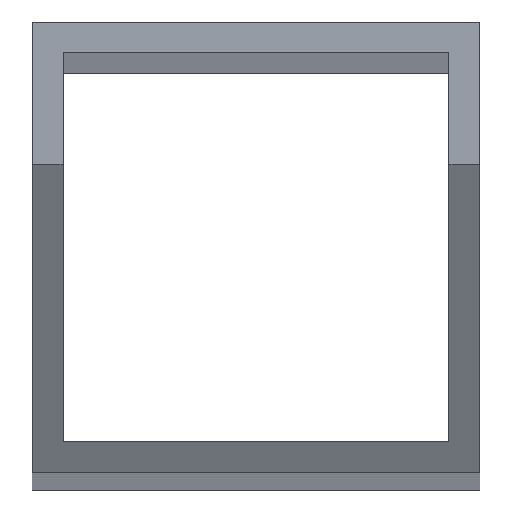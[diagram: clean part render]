
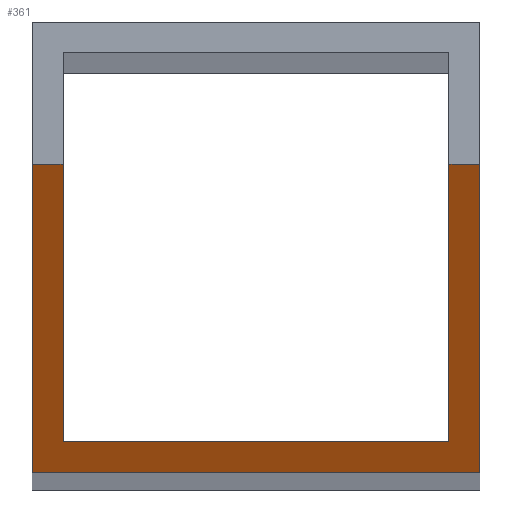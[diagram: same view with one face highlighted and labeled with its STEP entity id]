
A CAD part, top view. The second image highlights one B-rep face of the part: STEP entity #361.
In plain terms, the highlighted planar face has unit normal (0, -0.985, 0.174).
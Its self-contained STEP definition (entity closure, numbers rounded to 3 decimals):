
#37=CARTESIAN_POINT('',(1005.,349.401,1645.546));
#38=VERTEX_POINT('',#37);
#45=CARTESIAN_POINT('',(1005.,309.822,1421.079));
#46=VERTEX_POINT('',#45);
#47=CARTESIAN_POINT('',(1005.,349.401,1645.546));
#48=DIRECTION('',(0.,-0.174,-0.985));
#49=VECTOR('',#48,1.);
#50=LINE('',#47,#49);
#51=EDGE_CURVE('',#38,#46,#50,.T.);
#83=CARTESIAN_POINT('',(947.0,349.401,1645.546));
#84=VERTEX_POINT('',#83);
#91=CARTESIAN_POINT('',(951.0,349.401,1645.546));
#92=VERTEX_POINT('',#91);
#93=CARTESIAN_POINT('',(947.0,349.401,1645.546));
#94=DIRECTION('',(1.0,0.0,0.0));
#95=VECTOR('',#94,1.);
#96=LINE('',#93,#95);
#97=EDGE_CURVE('',#84,#92,#96,.T.);
#115=CARTESIAN_POINT('',(1001.0,349.401,1645.546));
#116=VERTEX_POINT('',#115);
#123=CARTESIAN_POINT('',(1001.0,349.401,1645.546));
#124=DIRECTION('',(1.0,0.0,0.0));
#125=VECTOR('',#124,1.);
#126=LINE('',#123,#125);
#127=EDGE_CURVE('',#116,#38,#126,.T.);
#154=CARTESIAN_POINT('',(947.,309.822,1421.079));
#155=VERTEX_POINT('',#154);
#162=CARTESIAN_POINT('',(947.,309.822,1421.079));
#163=DIRECTION('',(0.,0.174,0.985));
#164=VECTOR('',#163,1.);
#165=LINE('',#162,#164);
#166=EDGE_CURVE('',#155,#84,#165,.T.);
#195=CARTESIAN_POINT('',(1005.0,309.822,1421.079));
#196=DIRECTION('',(-1.0,0.0,0.0));
#197=VECTOR('',#196,1.);
#198=LINE('',#195,#197);
#199=EDGE_CURVE('',#46,#155,#198,.T.);
#218=CARTESIAN_POINT('',(1001.,313.822,1443.764));
#219=VERTEX_POINT('',#218);
#226=CARTESIAN_POINT('',(1001.,349.401,1645.546));
#227=DIRECTION('',(0.,-0.174,-0.985));
#228=VECTOR('',#227,1.);
#229=LINE('',#226,#228);
#230=EDGE_CURVE('',#116,#219,#229,.T.);
#256=CARTESIAN_POINT('',(951.,313.822,1443.764));
#257=VERTEX_POINT('',#256);
#258=CARTESIAN_POINT('',(951.,313.822,1443.764));
#259=DIRECTION('',(0.,0.174,0.985));
#260=VECTOR('',#259,1.);
#261=LINE('',#258,#260);
#262=EDGE_CURVE('',#257,#92,#261,.T.);
#312=CARTESIAN_POINT('',(1001.0,313.822,1443.764));
#313=DIRECTION('',(-1.0,0.0,0.0));
#314=VECTOR('',#313,1.);
#315=LINE('',#312,#314);
#316=EDGE_CURVE('',#219,#257,#315,.T.);
#346=CARTESIAN_POINT('',(-627.,269.363,1191.623));
#347=DIRECTION('',(0.0,-0.985,0.174));
#348=DIRECTION('',(1.0,0.0,0.0));
#349=AXIS2_PLACEMENT_3D('',#346,#347,#348);
#350=PLANE('',#349);
#351=ORIENTED_EDGE('',*,*,#127,.F.);
#352=ORIENTED_EDGE('',*,*,#230,.T.);
#353=ORIENTED_EDGE('',*,*,#316,.T.);
#354=ORIENTED_EDGE('',*,*,#262,.T.);
#355=ORIENTED_EDGE('',*,*,#97,.F.);
#356=ORIENTED_EDGE('',*,*,#166,.F.);
#357=ORIENTED_EDGE('',*,*,#199,.F.);
#358=ORIENTED_EDGE('',*,*,#51,.F.);
#359=EDGE_LOOP('',(#351,#352,#353,#354,#355,#356,#357,#358));
#360=FACE_BOUND('',#359,.T.);
#361=ADVANCED_FACE('',(#360),#350,.T.);
